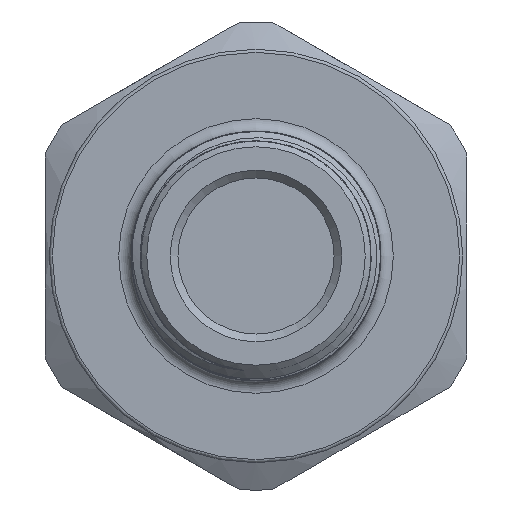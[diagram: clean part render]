
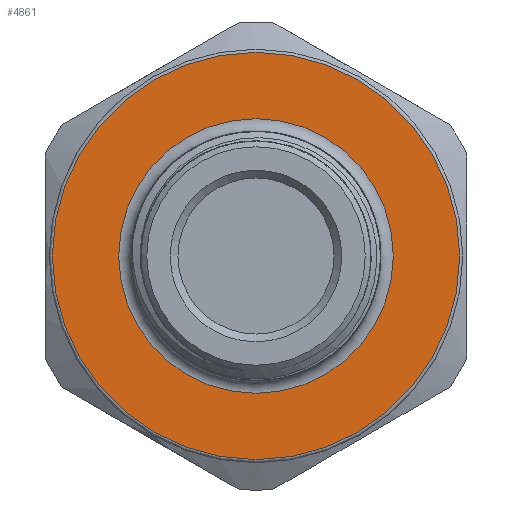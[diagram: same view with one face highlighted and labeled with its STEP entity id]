
A CAD part, left-side view. The second image highlights one B-rep face of the part: STEP entity #4861.
In plain terms, the highlighted planar face has unit normal (-1, 0, 0).
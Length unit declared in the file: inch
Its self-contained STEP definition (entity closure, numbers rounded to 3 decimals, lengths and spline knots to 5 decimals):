
#74=FACE_BOUND('',#589,.T.);
#106=PLANE('',#5318);
#324=FACE_OUTER_BOUND('',#588,.T.);
#588=EDGE_LOOP('',(#3424,#3425));
#589=EDGE_LOOP('',(#3426,#3427));
#918=CIRCLE('',#5315,0.51378);
#919=CIRCLE('',#5316,0.51378);
#921=CIRCLE('',#5319,0.34646);
#922=CIRCLE('',#5320,0.34646);
#1886=VERTEX_POINT('',#15440);
#1887=VERTEX_POINT('',#15442);
#1888=VERTEX_POINT('',#15447);
#1889=VERTEX_POINT('',#15448);
#2478=EDGE_CURVE('',#1886,#1887,#918,.T.);
#2479=EDGE_CURVE('',#1887,#1886,#919,.T.);
#2481=EDGE_CURVE('',#1888,#1889,#921,.T.);
#2482=EDGE_CURVE('',#1889,#1888,#922,.T.);
#3424=ORIENTED_EDGE('',*,*,#2479,.F.);
#3425=ORIENTED_EDGE('',*,*,#2478,.F.);
#3426=ORIENTED_EDGE('',*,*,#2481,.T.);
#3427=ORIENTED_EDGE('',*,*,#2482,.T.);
#4861=ADVANCED_FACE('',(#324,#74),#106,.T.);
#5315=AXIS2_PLACEMENT_3D('',#15443,#6294,#6295);
#5316=AXIS2_PLACEMENT_3D('',#15444,#6296,#6297);
#5318=AXIS2_PLACEMENT_3D('',#15446,#6300,#6301);
#5319=AXIS2_PLACEMENT_3D('',#15449,#6302,#6303);
#5320=AXIS2_PLACEMENT_3D('',#15450,#6304,#6305);
#6294=DIRECTION('center_axis',(1.,0.,0.));
#6295=DIRECTION('ref_axis',(0.,-0.5,-0.866));
#6296=DIRECTION('center_axis',(1.,0.,0.));
#6297=DIRECTION('ref_axis',(0.,-0.5,-0.866));
#6300=DIRECTION('center_axis',(-1.,0.,0.));
#6301=DIRECTION('ref_axis',(0.,-0.866,0.5));
#6302=DIRECTION('center_axis',(1.,0.,0.));
#6303=DIRECTION('ref_axis',(0.,0.5,0.866));
#6304=DIRECTION('center_axis',(1.,0.,0.));
#6305=DIRECTION('ref_axis',(0.,0.5,0.866));
#15440=CARTESIAN_POINT('',(-1.06299,-0.44495,0.25689));
#15442=CARTESIAN_POINT('',(-1.06299,0.25689,0.44495));
#15443=CARTESIAN_POINT('Origin',(-1.06299,0.,
0.));
#15444=CARTESIAN_POINT('Origin',(-1.06299,0.,
0.));
#15446=CARTESIAN_POINT('Origin',(-1.06299,0.21703,0.3759));
#15447=CARTESIAN_POINT('',(-1.06299,0.17323,0.30004));
#15448=CARTESIAN_POINT('',(-1.06299,-0.30004,0.17323));
#15449=CARTESIAN_POINT('Origin',(-1.06299,0.,
0.));
#15450=CARTESIAN_POINT('Origin',(-1.06299,0.,
0.));
